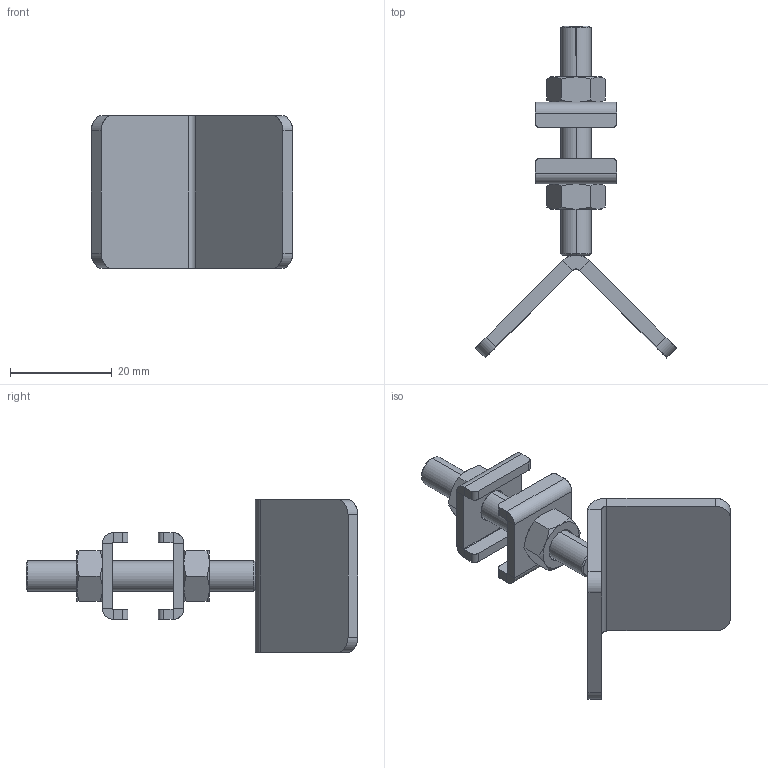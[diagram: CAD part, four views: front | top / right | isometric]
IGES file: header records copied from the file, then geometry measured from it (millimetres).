
Start section: SolidWorks IGES file using analytic representation for surfaces
Global section: file name: C:\Projetos\Ponteiras\PCA\PCA-M6.IGS; native system: SolidWorks 2011; preprocessor: SolidWorks 2011; author: Usuario; date: 110523.165100; units: millimetre
Bounding box: 39.6 x 65.19 x 30 mm (x, y, z)
Surface area: 6843.1 mm2 (no closed solid volume)
Topology: 0 solids, 0 shells, 134 faces, 1468 edges, 1468 vertices
Faces by surface type: revolution 68, bspline 66
